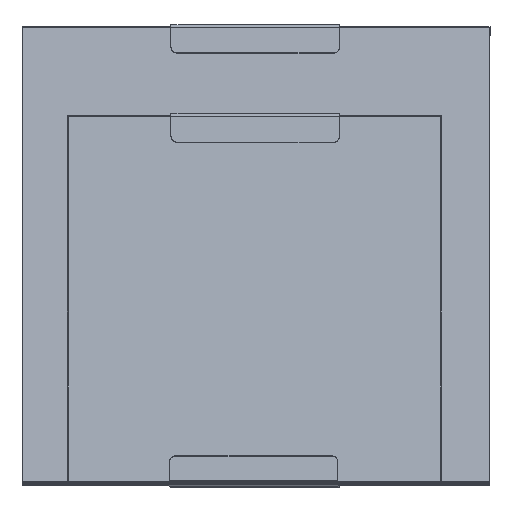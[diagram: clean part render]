
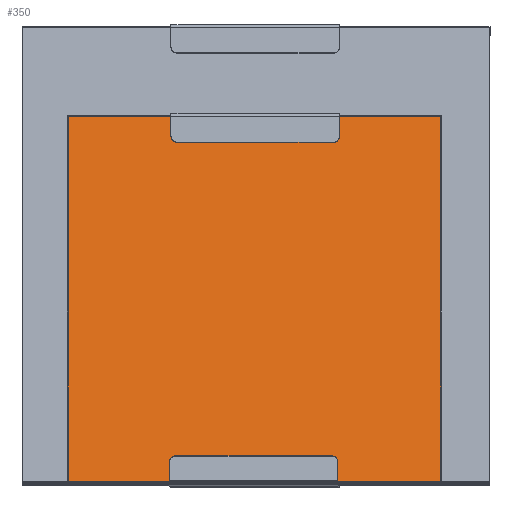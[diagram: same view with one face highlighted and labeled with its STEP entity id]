
A CAD part, left-side view. The second image highlights one B-rep face of the part: STEP entity #350.
In plain terms, the highlighted planar face has unit normal (-0.978, 0, 0.208).
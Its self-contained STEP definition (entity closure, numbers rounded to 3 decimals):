
#350=ADVANCED_FACE($,(#504),#2146,.T.);
#504=FACE_OUTER_BOUND($,#658,.T.);
#658=EDGE_LOOP($,(#1300,#1301,#1302,#1303));
#1300=ORIENTED_EDGE($,*,*,#1748,.T.);
#1301=ORIENTED_EDGE($,*,*,#1734,.F.);
#1302=ORIENTED_EDGE($,*,*,#1738,.F.);
#1303=ORIENTED_EDGE($,*,*,#1749,.T.);
#1734=EDGE_CURVE($,#2004,#2005,#2345,.T.);
#1738=EDGE_CURVE($,#2006,#2004,#2349,.T.);
#1748=EDGE_CURVE($,#2011,#2005,#2359,.T.);
#1749=EDGE_CURVE($,#2006,#2011,#2360,.T.);
#2004=VERTEX_POINT($,#3898);
#2005=VERTEX_POINT($,#3899);
#2006=VERTEX_POINT($,#3900);
#2011=VERTEX_POINT($,#3905);
#2146=PLANE($,#2572);
#2345=B_SPLINE_CURVE_WITH_KNOTS($,1,(#3840,#3841),.UNSPECIFIED.,.F.,.F.,
(2,2),(-239.,0.),.UNSPECIFIED.);
#2349=B_SPLINE_CURVE_WITH_KNOTS($,1,(#3848,#3849),.UNSPECIFIED.,.F.,.F.,
(2,2),(-239.,0.),.UNSPECIFIED.);
#2359=B_SPLINE_CURVE_WITH_KNOTS($,1,(#3868,#3869),.UNSPECIFIED.,.F.,.F.,
(2,2),(0.,239.),.UNSPECIFIED.);
#2360=B_SPLINE_CURVE_WITH_KNOTS($,1,(#3870,#3871),.UNSPECIFIED.,.F.,.F.,
(2,2),(0.,239.),.UNSPECIFIED.);
#2572=AXIS2_PLACEMENT_3D($,#3886,#2685,$);
#2685=DIRECTION($,(-0.978,0.,0.208));
#3840=CARTESIAN_POINT($,(1.196,-65.,3.869));
#3841=CARTESIAN_POINT($,(1.196,174.,3.869));
#3848=CARTESIAN_POINT($,(50.836,-65.,237.657));
#3849=CARTESIAN_POINT($,(1.196,-65.,3.869));
#3868=CARTESIAN_POINT($,(50.836,174.,237.657));
#3869=CARTESIAN_POINT($,(1.196,174.,3.869));
#3870=CARTESIAN_POINT($,(50.836,-65.,237.657));
#3871=CARTESIAN_POINT($,(50.836,174.,237.657));
#3886=CARTESIAN_POINT($,(50.836,174.,237.657));
#3898=CARTESIAN_POINT($,(1.196,-65.,3.869));
#3899=CARTESIAN_POINT($,(1.196,174.,3.869));
#3900=CARTESIAN_POINT($,(50.836,-65.,237.657));
#3905=CARTESIAN_POINT($,(50.836,174.,237.657));
